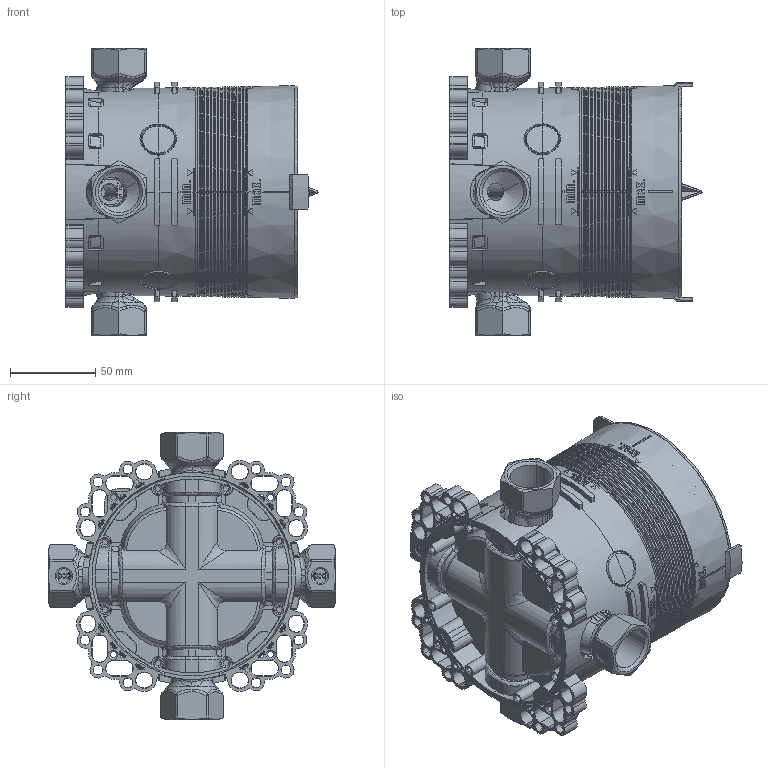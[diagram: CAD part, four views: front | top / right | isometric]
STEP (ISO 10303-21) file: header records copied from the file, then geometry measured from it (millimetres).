
FILE_DESCRIPTION((''),'2;1');
FILE_NAME('80010000GA_11_1_ASM','2021-05-26T13:22:32',('LF994'),(''),'CREO PARAMETRIC BY PTC INC, 2018500','CREO PARAMETRIC BY PTC INC, 2018500','');
FILE_SCHEMA(('CONFIG_CONTROL_DESIGN'));
Products named in the file (12): D017308_13_1; A023133_4_1; A023134_9_1; A023135_3_1; D017309_3_1; A022055_1_1; A006825_5_1; D017310_5_1; A004260_2_1; A017110_1_1; A017103_1_1; 80010000GA_11_1_ASM
Assembly tree (18 placements, depth 2):
  80010000GA_11_1_ASM
    D017308_13_1
    A023133_4_1
    A023134_9_1
    A023135_3_1
    D017309_3_1  x2
    A022055_1_1  x2
    A006825_5_1  x2
    D017310_5_1  x2
    A004260_2_1  x2
    A017110_1_1  x2
    A017103_1_1  x2
Bounding box: 147.5 x 168 x 168 mm (x, y, z)
Volume: 316385.7 mm3; surface area: 277099.5 mm2
Topology: 18 solids, 18 shells, 4140 faces, 11630 edges, 7453 vertices
Faces by surface type: plane 1504, cylinder 856, cone 836, bspline 662, torus 202, sphere 72, revolution 8
Entity records: 179420 total; most frequent: CARTESIAN_POINT 82161, ORIENTED_EDGE 22344, DIRECTION 17711, EDGE_CURVE 11172, VERTEX_POINT 7255, AXIS2_PLACEMENT_3D 6974, EDGE_LOOP 4269, FACE_OUTER_BOUND 4033
